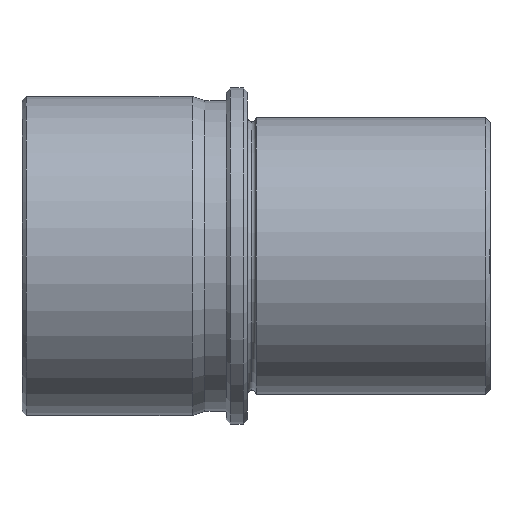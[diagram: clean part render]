
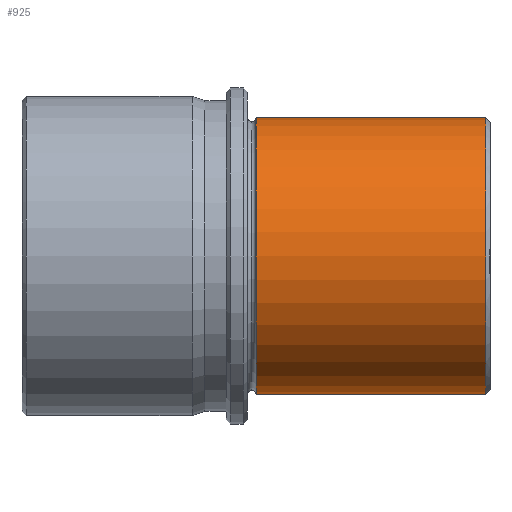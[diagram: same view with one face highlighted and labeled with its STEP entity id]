
A CAD part, left-side view. The second image highlights one B-rep face of the part: STEP entity #925.
In plain terms, the highlighted cylindrical face has radius 32.5 mm (diameter 65 mm), a partial arc.
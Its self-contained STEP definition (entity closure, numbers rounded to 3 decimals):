
#737=CARTESIAN_POINT('Vertex',(0.,1.,32.5)) ;
#744=CARTESIAN_POINT('Vertex',(0.,1.,-32.5)) ;
#773=CARTESIAN_POINT('Axis2P3D Location',(0.,1.,0.)) ;
#777=CARTESIAN_POINT('Vertex',(-32.5,1.,0.)) ;
#780=CARTESIAN_POINT('Axis2P3D Location',(0.,1.,0.)) ;
#865=CARTESIAN_POINT('Line Origine',(0.,0.,-32.5)) ;
#869=CARTESIAN_POINT('Vertex',(0.,55.,-32.5)) ;
#883=CARTESIAN_POINT('Vertex',(0.,55.,32.5)) ;
#886=CARTESIAN_POINT('Line Origine',(0.,0.,32.5)) ;
#900=CARTESIAN_POINT('Axis2P3D Location',(0.,0.,0.)) ;
#905=CARTESIAN_POINT('Axis2P3D Location',(0.,55.,0.)) ;
#909=CARTESIAN_POINT('Vertex',(-32.5,55.,0.)) ;
#912=CARTESIAN_POINT('Axis2P3D Location',(0.,55.,0.)) ;
#774=DIRECTION('Axis2P3D Direction',(-0.,1.,0.)) ;
#781=DIRECTION('Axis2P3D Direction',(-0.,1.,0.)) ;
#866=DIRECTION('Vector Direction',(0.,1.,0.)) ;
#887=DIRECTION('Vector Direction',(0.,1.,0.)) ;
#901=DIRECTION('Axis2P3D Direction',(0.,1.,0.)) ;
#902=DIRECTION('Axis2P3D XDirection',(0.,0.,-1.)) ;
#906=DIRECTION('Axis2P3D Direction',(0.,1.,0.)) ;
#913=DIRECTION('Axis2P3D Direction',(0.,1.,0.)) ;
#775=AXIS2_PLACEMENT_3D('Circle Axis2P3D',#773,#774,$) ;
#782=AXIS2_PLACEMENT_3D('Circle Axis2P3D',#780,#781,$) ;
#903=AXIS2_PLACEMENT_3D('Cylinder Axis2P3D',#900,#901,#902) ;
#907=AXIS2_PLACEMENT_3D('Circle Axis2P3D',#905,#906,$) ;
#914=AXIS2_PLACEMENT_3D('Circle Axis2P3D',#912,#913,$) ;
#918=ORIENTED_EDGE('',*,*,#890,.T.) ;
#919=ORIENTED_EDGE('',*,*,#911,.T.) ;
#920=ORIENTED_EDGE('',*,*,#916,.T.) ;
#921=ORIENTED_EDGE('',*,*,#871,.T.) ;
#922=ORIENTED_EDGE('',*,*,#784,.F.) ;
#923=ORIENTED_EDGE('',*,*,#779,.F.) ;
#867=VECTOR('Line Direction',#866,1.) ;
#888=VECTOR('Line Direction',#887,1.) ;
#925=ADVANCED_FACE('CF 450 50x110',(#924),#904,.T.) ;
#776=CIRCLE('generated circle',#775,32.5) ;
#783=CIRCLE('generated circle',#782,32.5) ;
#908=CIRCLE('generated circle',#907,32.5) ;
#915=CIRCLE('generated circle',#914,32.5) ;
#904=CYLINDRICAL_SURFACE('generated cylinder',#903,32.5) ;
#779=EDGE_CURVE('',#738,#778,#776,.F.) ;
#784=EDGE_CURVE('',#778,#745,#783,.F.) ;
#871=EDGE_CURVE('',#870,#745,#868,.F.) ;
#890=EDGE_CURVE('',#738,#884,#889,.T.) ;
#911=EDGE_CURVE('',#884,#910,#908,.F.) ;
#916=EDGE_CURVE('',#910,#870,#915,.F.) ;
#917=EDGE_LOOP('',(#918,#919,#920,#921,#922,#923)) ;
#924=FACE_OUTER_BOUND('',#917,.T.) ;
#868=LINE('Line',#865,#867) ;
#889=LINE('Line',#886,#888) ;
#738=VERTEX_POINT('',#737) ;
#745=VERTEX_POINT('',#744) ;
#778=VERTEX_POINT('',#777) ;
#870=VERTEX_POINT('',#869) ;
#884=VERTEX_POINT('',#883) ;
#910=VERTEX_POINT('',#909) ;
